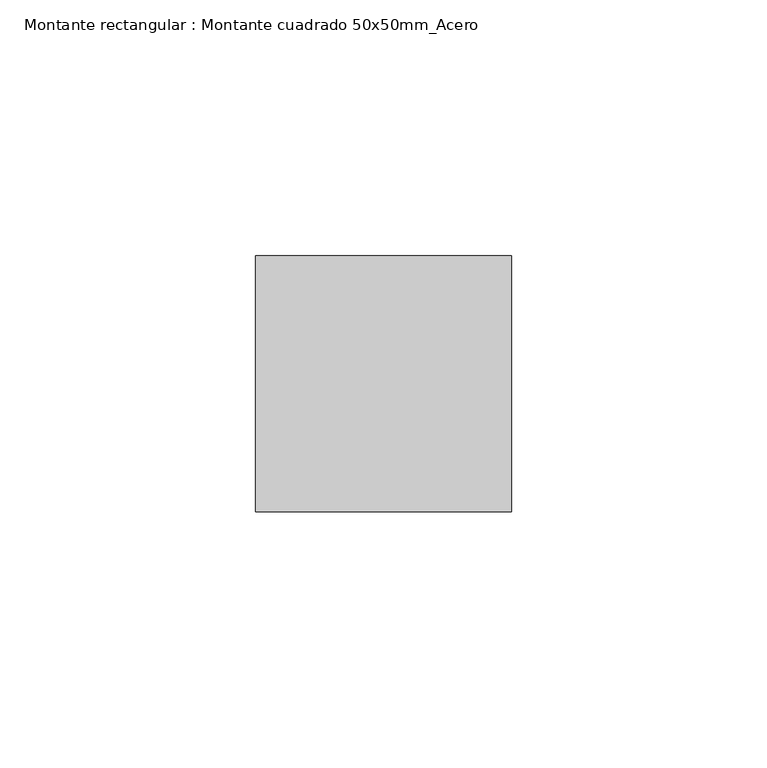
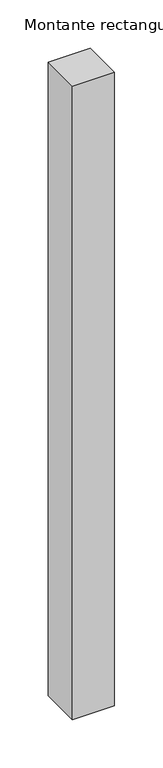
"""IFC4 building model written with IfcOpenShell, lengths in millimetres: member geometry, Montante rectangular : Montante cuadrado 50x50mm_Acero."""

from ifc_helpers import new_model, si_unit, frame, origin, place, context, project, spatial, polyline, outline, extrude, source, transform, mapped, element, save


def montante_rectangular_montante_cuadrado_50x50mm_acero_dcaf8623(model_context):
    return source(origin(), model_context, "Body", "SweptSolid", [
        extrude(outline(polyline([(0.0, 0.0), (0.0, -50.0), (-50.0, -50.0), (-50.0, 0.0), (0.0, 0.0)])), frame((0.0, 0.0, -800.0), z_axis=(0.0, 0.0, 1.0), x_axis=(1.0, 0.0, 0.0)), (0.0, 0.0, 1.0), 800.0),
    ])


if __name__ == "__main__":
    model = new_model("IFC4")
    model_context = context("Model", 3, world=origin())
    ifc_project = project(units=[si_unit("LENGTHUNIT", "METRE", prefix="MILLI")], contexts=[model_context])
    site = spatial("IfcSite", under=ifc_project)
    building = spatial("IfcBuilding", under=site)
    placement = place(None, origin())
    montante_rectangular_montante_cuadrado_50x50mm_acero_shape = montante_rectangular_montante_cuadrado_50x50mm_acero_dcaf8623(model_context)
    element("IfcMember", 1, ObjectType="Montante rectangular : Montante cuadrado 50x50mm_Acero", at=placement, inside=building, context=model_context, shape_type="MappedRepresentation", body=[
        mapped(montante_rectangular_montante_cuadrado_50x50mm_acero_shape, transform((0.0, 0.0, 0.0), x_axis=(1.0, 0.0, 0.0), y_axis=(0.0, 1.0, 0.0), z_axis=(0.0, 0.0, 1.0))),
    ])
    save(model, "model.ifc")
